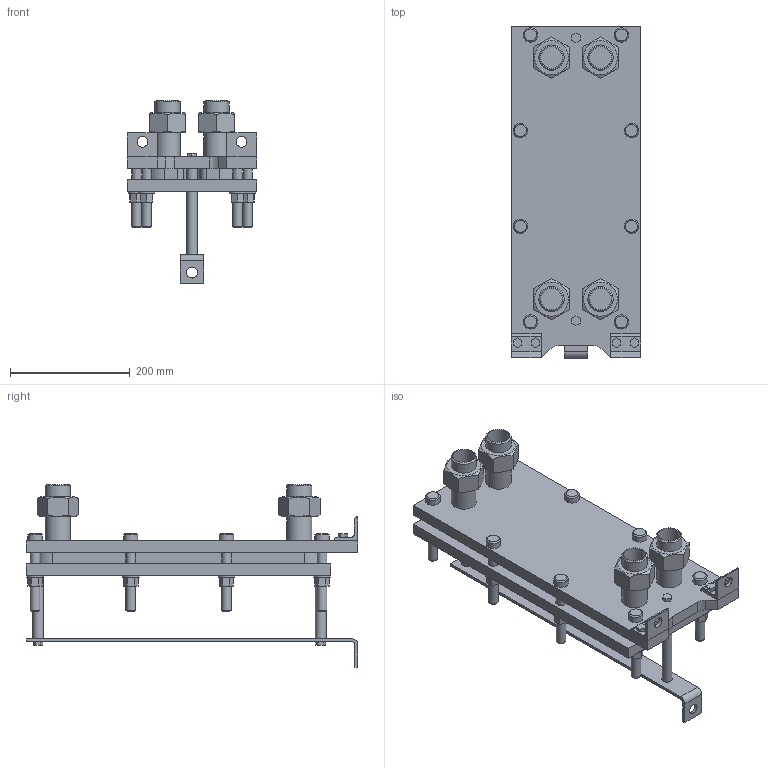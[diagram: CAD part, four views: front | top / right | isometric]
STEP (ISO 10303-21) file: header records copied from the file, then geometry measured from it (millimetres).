
FILE_DESCRIPTION(/* description */ (''),/* implementation_level */ '2;1');
FILE_NAME(/* name */ 'C:\Users\zhuro\Desktop\ENCO\TO\ЭН-004\ЭН-0,5-004-6-1.stp',/* time_stamp */ '2022-06-06T10:44:34+03:00',/* author */ ('zhuro'),/* organization */ (''),/* preprocessor_version */ 'ST-DEVELOPER v18.1',/* originating_system */ 'Autodesk Inventor 2022',/* authorisation */ '');
FILE_SCHEMA (('AUTOMOTIVE_DESIGN { 1 0 10303 214 3 1 1 }'));
Length unit declared in the file: millimetre
Products named in the file (1): ЭН-0,5-004-6-1
Bounding box: 216 x 555 x 305.8 mm (x, y, z)
Volume: 6819458.5 mm3; surface area: 999483 mm2
Topology: 40 solids, 40 shells, 403 faces, 865 edges, 574 vertices
Faces by surface type: plane 272, cylinder 103, cone 28
Full cylindrical faces by diameter (mm): 10 x4, 16 x16, 18 x29, 20 x2, 24 x8, 28 x8, 36.3 x5, 42.3 x9
Entity records: 11137 total; most frequent: CARTESIAN_POINT 1939, DIRECTION 1879, ORIENTED_EDGE 1730, EDGE_CURVE 865, AXIS2_PLACEMENT_3D 658, VERTEX_POINT 574, LINE 563, VECTOR 563
